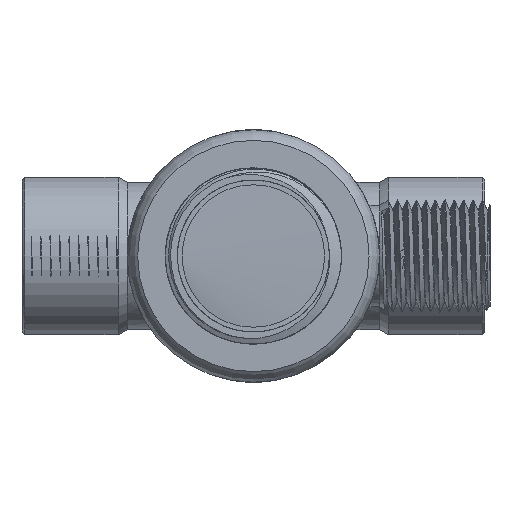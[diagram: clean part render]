
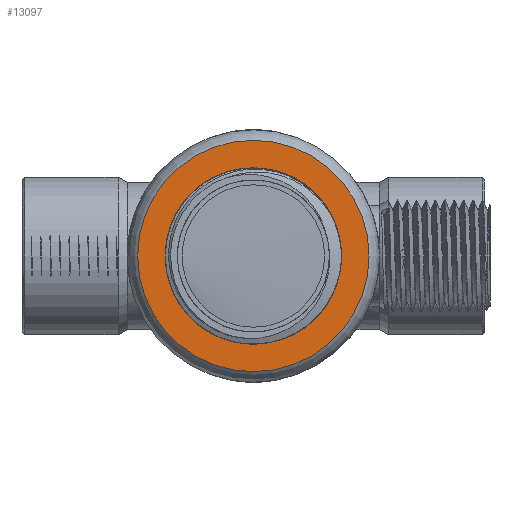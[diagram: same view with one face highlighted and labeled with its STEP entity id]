
A CAD part, left-side view. The second image highlights one B-rep face of the part: STEP entity #13097.
In plain terms, the highlighted planar face has unit normal (-1, 0, 0).
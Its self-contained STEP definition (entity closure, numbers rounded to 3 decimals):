
#214=PLANE('',#14018);
#402=FACE_BOUND('',#2168,.T.);
#408=CIRCLE('',#13162,16.75);
#409=CIRCLE('',#13163,16.75);
#530=CIRCLE('',#13656,22.);
#531=CIRCLE('',#13657,22.);
#1373=FACE_OUTER_BOUND('',#2167,.T.);
#2167=EDGE_LOOP('',(#11935,#11936));
#2168=EDGE_LOOP('',(#11937,#11938));
#4771=VERTEX_POINT('',#17840);
#4772=VERTEX_POINT('',#17842);
#5474=VERTEX_POINT('',#46327);
#5475=VERTEX_POINT('',#46329);
#6101=EDGE_CURVE('',#4771,#4772,#408,.T.);
#6102=EDGE_CURVE('',#4772,#4771,#409,.T.);
#7170=EDGE_CURVE('',#5475,#5474,#530,.T.);
#7171=EDGE_CURVE('',#5474,#5475,#531,.T.);
#11935=ORIENTED_EDGE('',*,*,#7170,.T.);
#11936=ORIENTED_EDGE('',*,*,#7171,.T.);
#11937=ORIENTED_EDGE('',*,*,#6102,.F.);
#11938=ORIENTED_EDGE('',*,*,#6101,.F.);
#13097=ADVANCED_FACE('',(#1373,#402),#214,.T.);
#13162=AXIS2_PLACEMENT_3D('',#17843,#14170,#14171);
#13163=AXIS2_PLACEMENT_3D('',#17844,#14172,#14173);
#13656=AXIS2_PLACEMENT_3D('',#46330,#15474,#15475);
#13657=AXIS2_PLACEMENT_3D('',#46331,#15476,#15477);
#14018=AXIS2_PLACEMENT_3D('',#60714,#16574,#16575);
#14170=DIRECTION('center_axis',(-1.,0.,0.));
#14171=DIRECTION('ref_axis',(0.,0.,1.));
#14172=DIRECTION('center_axis',(-1.,0.,0.));
#14173=DIRECTION('ref_axis',(0.,0.,1.));
#15474=DIRECTION('center_axis',(-1.,0.,0.));
#15475=DIRECTION('ref_axis',(0.,0.,1.));
#15476=DIRECTION('center_axis',(-1.,0.,0.));
#15477=DIRECTION('ref_axis',(0.,0.,1.));
#16574=DIRECTION('center_axis',(-1.,0.,0.));
#16575=DIRECTION('ref_axis',(0.,0.,1.));
#17840=CARTESIAN_POINT('',(-452.5,16.75,0.));
#17842=CARTESIAN_POINT('',(-452.5,-16.75,0.));
#17843=CARTESIAN_POINT('Origin',(-452.5,0.,
0.));
#17844=CARTESIAN_POINT('Origin',(-452.5,0.,
0.));
#46327=CARTESIAN_POINT('',(-452.5,0.,22.));
#46329=CARTESIAN_POINT('',(-452.5,-22.,0.));
#46330=CARTESIAN_POINT('Origin',(-452.5,0.,
0.));
#46331=CARTESIAN_POINT('Origin',(-452.5,0.,
0.));
#60714=CARTESIAN_POINT('Origin',(-452.5,-16.75,0.));
